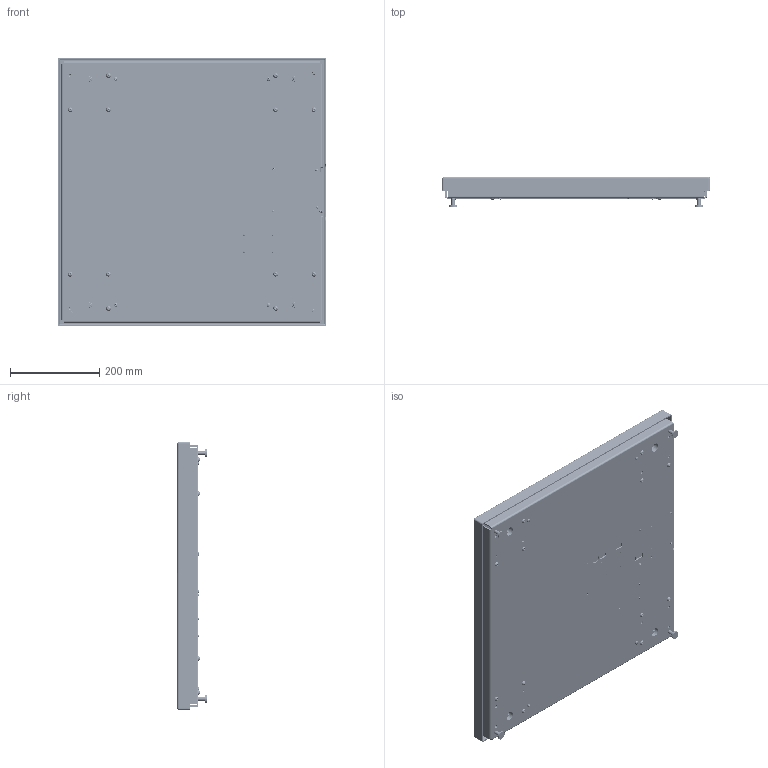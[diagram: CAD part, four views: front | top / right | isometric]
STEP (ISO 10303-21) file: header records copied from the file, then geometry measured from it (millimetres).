
FILE_DESCRIPTION (( 'STEP AP214' ), '1' );
FILE_NAME ('E-SCALE-6610-2424-660.STEP', '2019-08-29T22:45:41', ( '' ), ( '' ), 'SwSTEP 2.0', 'SolidWorks 2017', '' );
FILE_SCHEMA (( 'AUTOMOTIVE_DESIGN' ));
Length unit declared in the file: millimetre
Products named in the file (56): 0078239; 0075290; 2143-T004; flat washer type a selected narrow_ai_Selected Narrow FW 0.125; Chassis fastener Winchester Electronics A1591B; 0075200_93505A451; 2814-0098-0_90633A007; 0075309; 2817-0272-0_90402A146; mcv_1.5-9-g-3.81_1; 0074534; 2143-T013; 0075294; socket button head cap screw_am_B18.3.4M - 6 x 1.0 x 20 SBHCS --N-A2.70; 0074757_Modified By Hardy; Bivar Spacer_TO-201-040; flat head screw_ai_CR-FHMS 0.164-32x0.875x0.875-N-A2.70; 0075231_PBSH-300kg 600 X 600; 0074535; Amphenol_RJHSE-5080-02-REVT1; socket head cap screw_am_B18.3.1M - 5 x 0.8 x 20 Hex SHCS -- 20NHX-A2.70; 0018546; 0530-0854-XX-0; 0075174_6; red_green_LED; hex jam nut_ai_HJNUT 0.2500-20-D-N; 2814-T011_90631A005; 0067067; Phoenix_1803646; 2815-0169-0_91780A521; pan cross head_ai_CR-PHMS 0.164-32x0.3125x0.3125-N-A2.70; 6610 Bare Board; pan cross head_ai_CR-PHMS 0.112-40x0.5x0.5-N; 0075230_91780A198; 0530-0856-01-0; 0075198; E-SCALE-6610-2424-660; 2815-0168-0_91780A534; 0074536; 0535-0567-02-0 WO Ethernet Port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
Assembly tree (121 placements, depth 4):
  E-SCALE-6610-2424-660
    0074904
      0074915_Modified By Hardy_Default<As Machined>
      0074918  x4
      0078239
    0075309
    0075175_84-001319  x4
      0075172_A6
      0075174_6
      0075173_B6
    hex jam nut_ai_HJNUT 0.2500-20-D-N  x4
    0074757_Modified By Hardy
    0075198  x4
    0075200_93505A451  x4
    0075290
      0075233
      0018546  x4
      0075287_C2 CHIP
      0075295  x4
        0075294
        0075293
    pan cross head_ai_CR-PHMS 0.164-32x0.3125x0.3125-N-A2.70  x4
    0074536  x4
      0074534
      0074535
      0067067
      socket head cap screw_am_B18.3.1M - 5 x 0.8 x 20 Hex SHCS -- 20NHX-A2.70
    0075231_PBSH-300kg 600 X 600  x4
      0075230_91780A198
      0075232_80-001903
      flat head screw_ai_CR-FHMS 0.164-32x0.875x0.875-N-A2.70
      pan cross head_ai_CR-PHMS 0.164-32x0.3125x0.3125-N-A2.70
    socket button head cap screw_am_B18.3.4M - 6 x 1.0 x 20 SBHCS --N-A2.70  x12
    2814-0098-0_90633A007  x2
    2143-T004
    2143-T013
    flat washer type a selected narrow_ai_Selected Narrow FW 0.125  x5
    2814-T011_90631A005
    0514-0242-01-0_Rev A
    2817-0272-0_90402A146
    0535-0567-02-0 WO Ethernet Port
      6610 Bare Board
      Chassis fastener Winchester Electronics A1591B  x2
      red_green_LED
      5126-0009-0
      Amphenol_RJHSE-5080-02-REVT1
      2140-0144-09-0
        mcv_1.5-9-g-3.81_1
      Phoenix_1803646
      Bivar Spacer_TO-201-040  x4
    pan cross head_ai_CR-PHMS 0.112-40x0.5x0.5-N  x4
    2815-0169-0_91780A521  x7
    2815-0168-0_91780A534
    lock washer spring regular_ai_Regular LW 0.112  x4
    0530-0853-01-0
    0530-0856-01-0
    0530-0854-XX-0
Bounding box: 600.13 x 66.39 x 600 mm (x, y, z)
Volume: 3035943.8 mm3; surface area: 1986860.5 mm2
Topology: 675 solids, 678 shells, 17934 faces, 46075 edges, 29969 vertices
Faces by surface type: plane 9231, bspline 5056, cylinder 2479, cone 964, torus 150, sphere 54
Entity records: 614729 total; most frequent: CARTESIAN_POINT 169366, ORIENTED_EDGE 74676, DIRECTION 47796, EDGE_CURVE 37343, VERTEX_POINT 24591, VECTOR 23208, LINE 23208, EDGE_LOOP 15324
